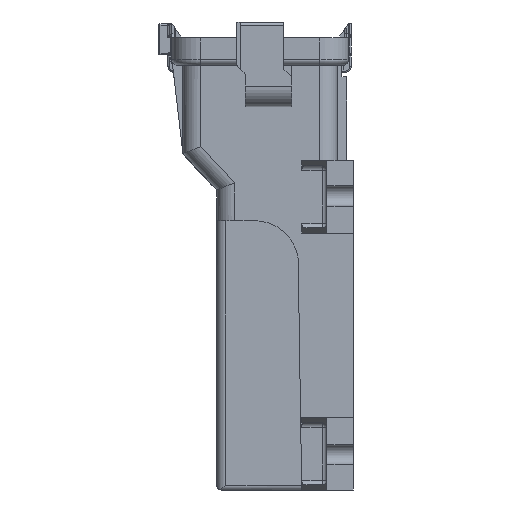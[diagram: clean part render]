
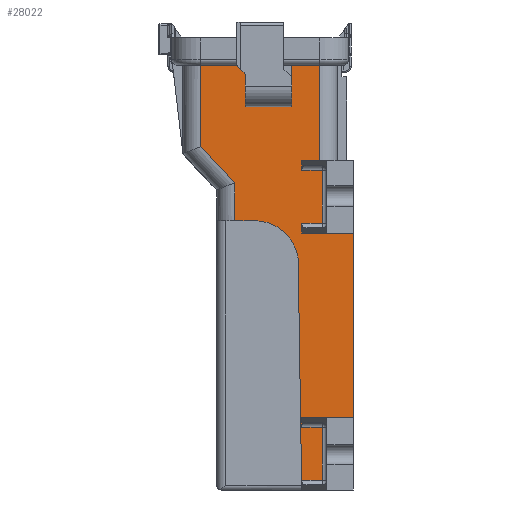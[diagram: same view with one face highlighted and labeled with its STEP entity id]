
A CAD part, left-side view. The second image highlights one B-rep face of the part: STEP entity #28022.
In plain terms, the highlighted planar face has unit normal (-1, 0, 0).
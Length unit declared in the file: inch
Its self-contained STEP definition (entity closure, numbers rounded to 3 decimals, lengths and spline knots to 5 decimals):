
#2=DIRECTION('',(0.,-1.,0.));
#3=VECTOR('',#2,0.405);
#4=CARTESIAN_POINT('',(-2.455,1.55,1.));
#5=LINE('',#4,#3);
#6=DIRECTION('',(0.,0.707,0.707));
#7=VECTOR('',#6,0.14142);
#8=CARTESIAN_POINT('',(-2.455,1.045,0.9));
#9=LINE('',#8,#7);
#10=DIRECTION('',(0.,0.,1.));
#11=VECTOR('',#10,0.37);
#12=CARTESIAN_POINT('',(-2.455,1.045,0.53));
#13=LINE('',#12,#11);
#14=DIRECTION('',(0.,1.,0.));
#15=VECTOR('',#14,0.525);
#16=CARTESIAN_POINT('',(-2.455,0.52,0.53));
#17=LINE('',#16,#15);
#18=DIRECTION('',(0.,0.,-1.));
#19=VECTOR('',#18,0.47);
#20=CARTESIAN_POINT('',(-2.455,0.52,1.));
#21=LINE('',#20,#19);
#22=DIRECTION('',(0.,-1.,0.));
#23=VECTOR('',#22,0.32);
#24=CARTESIAN_POINT('',(-2.455,0.52,1.));
#25=LINE('',#24,#23);
#26=DIRECTION('',(0.,1.,0.));
#27=VECTOR('',#26,0.205);
#28=CARTESIAN_POINT('',(-2.455,0.2,-0.08));
#29=LINE('',#28,#27);
#30=DIRECTION('',(0.,1.,0.));
#31=VECTOR('',#30,0.585);
#32=CARTESIAN_POINT('',(-2.455,-0.18,-0.9));
#33=LINE('',#32,#31);
#34=DIRECTION('',(0.,1.,0.));
#35=VECTOR('',#34,0.585);
#36=CARTESIAN_POINT('',(-2.455,-0.18,-2.99));
#37=LINE('',#36,#35);
#38=DIRECTION('',(0.,-0.015,-1.));
#39=VECTOR('',#38,2.6259);
#40=CARTESIAN_POINT('',(-2.455,0.445,-1.1844));
#41=LINE('',#40,#39);
#42=CARTESIAN_POINT('',(-2.455,0.93925,-1.26));
#43=DIRECTION('',(1.,0.,0.));
#44=DIRECTION('',(0.,0.,1.));
#45=AXIS2_PLACEMENT_3D('',#42,#43,#44);
#47=DIRECTION('',(0.,-1.,0.));
#48=VECTOR('',#47,0.22575);
#49=CARTESIAN_POINT('',(-2.455,1.165,-0.76));
#50=LINE('',#49,#48);
#12803=DIRECTION('',(0.,0.,-1.));
#12804=VECTOR('',#12803,0.92082);
#12805=CARTESIAN_POINT('',(-2.455,1.55,1.));
#12806=LINE('',#12805,#12804);
#12824=DIRECTION('',(0.,-0.685,-0.729));
#12825=VECTOR('',#12824,0.56243);
#12826=CARTESIAN_POINT('',(-2.455,1.55,0.07918));
#12827=LINE('',#12826,#12825);
#15766=DIRECTION('',(0.,0.,-1.));
#15767=VECTOR('',#15766,0.42918);
#15768=CARTESIAN_POINT('',(-2.455,1.165,-0.33082));
#15769=LINE('',#15768,#15767);
#20362=DIRECTION('',(0.,0.,-1.));
#20363=VECTOR('',#20362,2.09);
#20364=CARTESIAN_POINT('',(-2.455,-0.18,-0.9));
#20365=LINE('',#20364,#20363);
#20606=DIRECTION('',(0.,0.,1.));
#20607=VECTOR('',#20606,0.11);
#20608=CARTESIAN_POINT('',(-2.455,0.405,-0.19));
#20609=LINE('',#20608,#20607);
#20623=DIRECTION('',(0.,-1.,0.));
#20624=VECTOR('',#20623,0.235);
#20625=CARTESIAN_POINT('',(-2.455,0.405,-0.19));
#20626=LINE('',#20625,#20624);
#20644=DIRECTION('',(0.,0.,-1.));
#20645=VECTOR('',#20644,0.6);
#20646=CARTESIAN_POINT('',(-2.455,0.17,-0.19));
#20647=LINE('',#20646,#20645);
#20742=DIRECTION('',(0.,0.,1.));
#20743=VECTOR('',#20742,0.11);
#20744=CARTESIAN_POINT('',(-2.455,0.405,-0.9));
#20745=LINE('',#20744,#20743);
#20783=DIRECTION('',(0.,1.,0.));
#20784=VECTOR('',#20783,0.235);
#20785=CARTESIAN_POINT('',(-2.455,0.17,-0.79));
#20786=LINE('',#20785,#20784);
#20965=DIRECTION('',(0.,0.,1.));
#20966=VECTOR('',#20965,0.11);
#20967=CARTESIAN_POINT('',(-2.455,0.405,-3.81));
#20968=LINE('',#20967,#20966);
#20973=DIRECTION('',(0.,1.,0.));
#20974=VECTOR('',#20973,0.235);
#20975=CARTESIAN_POINT('',(-2.455,0.17,-3.7));
#20976=LINE('',#20975,#20974);
#20994=DIRECTION('',(0.,0.,-1.));
#20995=VECTOR('',#20994,0.6);
#20996=CARTESIAN_POINT('',(-2.455,0.17,-3.1));
#20997=LINE('',#20996,#20995);
#21021=DIRECTION('',(0.,-1.,0.));
#21022=VECTOR('',#21021,0.235);
#21023=CARTESIAN_POINT('',(-2.455,0.405,-3.1));
#21024=LINE('',#21023,#21022);
#21033=DIRECTION('',(0.,0.,1.));
#21034=VECTOR('',#21033,0.11);
#21035=CARTESIAN_POINT('',(-2.455,0.405,-3.1));
#21036=LINE('',#21035,#21034);
#22823=DIRECTION('',(0.,0.,1.));
#22824=VECTOR('',#22823,1.08);
#22825=CARTESIAN_POINT('',(-2.455,0.2,-0.08));
#22826=LINE('',#22825,#22824);
#23146=CARTESIAN_POINT('',(-2.455,0.93925,-0.76));
#23147=CARTESIAN_POINT('',(-2.455,0.445,-1.1844));
#23148=VERTEX_POINT('',#23146);
#23149=VERTEX_POINT('',#23147);
#23184=CARTESIAN_POINT('',(-2.455,1.165,-0.33082));
#23185=CARTESIAN_POINT('',(-2.455,1.165,-0.76));
#23186=VERTEX_POINT('',#23184);
#23187=VERTEX_POINT('',#23185);
#23188=CARTESIAN_POINT('',(-2.455,1.55,0.07918));
#23189=VERTEX_POINT('',#23188);
#23374=CARTESIAN_POINT('',(-2.455,0.2,1.));
#23376=VERTEX_POINT('',#23374);
#23382=CARTESIAN_POINT('',(-2.455,1.55,1.));
#23383=VERTEX_POINT('',#23382);
#23470=CARTESIAN_POINT('',(-2.455,0.52,1.));
#23471=CARTESIAN_POINT('',(-2.455,0.52,0.53));
#23472=VERTEX_POINT('',#23470);
#23473=VERTEX_POINT('',#23471);
#24183=CARTESIAN_POINT('',(-2.455,0.17,-0.79));
#24184=CARTESIAN_POINT('',(-2.455,0.405,-0.79));
#24185=VERTEX_POINT('',#24183);
#24186=VERTEX_POINT('',#24184);
#24199=CARTESIAN_POINT('',(-2.455,0.17,-0.19));
#24200=VERTEX_POINT('',#24199);
#24211=CARTESIAN_POINT('',(-2.455,0.405,-3.1));
#24212=CARTESIAN_POINT('',(-2.455,0.17,-3.1));
#24213=VERTEX_POINT('',#24211);
#24214=VERTEX_POINT('',#24212);
#24215=CARTESIAN_POINT('',(-2.455,0.17,-3.7));
#24216=VERTEX_POINT('',#24215);
#24439=CARTESIAN_POINT('',(-2.455,0.405,-3.81));
#24440=VERTEX_POINT('',#24439);
#24445=CARTESIAN_POINT('',(-2.455,0.2,-0.08));
#24446=CARTESIAN_POINT('',(-2.455,0.405,-0.08));
#24447=VERTEX_POINT('',#24445);
#24448=VERTEX_POINT('',#24446);
#24471=CARTESIAN_POINT('',(-2.455,0.405,-0.19));
#24472=VERTEX_POINT('',#24471);
#24473=CARTESIAN_POINT('',(-2.455,0.405,-3.7));
#24474=VERTEX_POINT('',#24473);
#25407=CARTESIAN_POINT('',(-2.455,1.045,0.53));
#25408=VERTEX_POINT('',#25407);
#25413=CARTESIAN_POINT('',(-2.455,1.045,0.9));
#25414=VERTEX_POINT('',#25413);
#26164=CARTESIAN_POINT('',(-2.455,1.145,1.));
#26166=VERTEX_POINT('',#26164);
#27937=CARTESIAN_POINT('',(-2.455,-0.18,-2.99));
#27938=CARTESIAN_POINT('',(-2.455,0.405,-2.99));
#27939=VERTEX_POINT('',#27937);
#27940=VERTEX_POINT('',#27938);
#27953=CARTESIAN_POINT('',(-2.455,-0.18,-0.9));
#27954=CARTESIAN_POINT('',(-2.455,0.405,-0.9));
#27955=VERTEX_POINT('',#27953);
#27956=VERTEX_POINT('',#27954);
#27961=CARTESIAN_POINT('',(-2.455,0.,0.));
#27962=DIRECTION('',(1.,0.,0.));
#27963=DIRECTION('',(0.,0.,-1.));
#27964=AXIS2_PLACEMENT_3D('',#27961,#27962,#27963);
#27965=PLANE('',#27964);
#27967=ORIENTED_EDGE('',*,*,#27966,.T.);
#27969=ORIENTED_EDGE('',*,*,#27968,.F.);
#27971=ORIENTED_EDGE('',*,*,#27970,.F.);
#27973=ORIENTED_EDGE('',*,*,#27972,.F.);
#27975=ORIENTED_EDGE('',*,*,#27974,.F.);
#27977=ORIENTED_EDGE('',*,*,#27976,.T.);
#27979=ORIENTED_EDGE('',*,*,#27978,.F.);
#27981=ORIENTED_EDGE('',*,*,#27980,.T.);
#27983=ORIENTED_EDGE('',*,*,#27982,.F.);
#27985=ORIENTED_EDGE('',*,*,#27984,.T.);
#27987=ORIENTED_EDGE('',*,*,#27986,.T.);
#27989=ORIENTED_EDGE('',*,*,#27988,.T.);
#27991=ORIENTED_EDGE('',*,*,#27990,.F.);
#27993=ORIENTED_EDGE('',*,*,#27992,.F.);
#27995=ORIENTED_EDGE('',*,*,#27994,.T.);
#27997=ORIENTED_EDGE('',*,*,#27996,.T.);
#27999=ORIENTED_EDGE('',*,*,#27998,.F.);
#28001=ORIENTED_EDGE('',*,*,#28000,.T.);
#28003=ORIENTED_EDGE('',*,*,#28002,.T.);
#28005=ORIENTED_EDGE('',*,*,#28004,.T.);
#28007=ORIENTED_EDGE('',*,*,#28006,.F.);
#28009=ORIENTED_EDGE('',*,*,#28008,.F.);
#28011=ORIENTED_EDGE('',*,*,#28010,.F.);
#28013=ORIENTED_EDGE('',*,*,#28012,.F.);
#28015=ORIENTED_EDGE('',*,*,#28014,.F.);
#28017=ORIENTED_EDGE('',*,*,#28016,.F.);
#28019=ORIENTED_EDGE('',*,*,#28018,.F.);
#28020=EDGE_LOOP('',(#27967,#27969,#27971,#27973,#27975,#27977,#27979,#27981,
#27983,#27985,#27987,#27989,#27991,#27993,#27995,#27997,#27999,#28001,#28003,
#28005,#28007,#28009,#28011,#28013,#28015,#28017,#28019));
#28021=FACE_OUTER_BOUND('',#28020,.F.);
#28022=ADVANCED_FACE('',(#28021),#27965,.F.);
#46=CIRCLE('',#45,0.5);
#27966=EDGE_CURVE('',#23383,#26166,#5,.T.);
#27968=EDGE_CURVE('',#25414,#26166,#9,.T.);
#27970=EDGE_CURVE('',#25408,#25414,#13,.T.);
#27972=EDGE_CURVE('',#23473,#25408,#17,.T.);
#27974=EDGE_CURVE('',#23472,#23473,#21,.T.);
#27976=EDGE_CURVE('',#23472,#23376,#25,.T.);
#27978=EDGE_CURVE('',#24447,#23376,#22826,.T.);
#27980=EDGE_CURVE('',#24447,#24448,#29,.T.);
#27982=EDGE_CURVE('',#24472,#24448,#20609,.T.);
#27984=EDGE_CURVE('',#24472,#24200,#20626,.T.);
#27986=EDGE_CURVE('',#24200,#24185,#20647,.T.);
#27988=EDGE_CURVE('',#24185,#24186,#20786,.T.);
#27990=EDGE_CURVE('',#27956,#24186,#20745,.T.);
#27992=EDGE_CURVE('',#27955,#27956,#33,.T.);
#27994=EDGE_CURVE('',#27955,#27939,#20365,.T.);
#27996=EDGE_CURVE('',#27939,#27940,#37,.T.);
#27998=EDGE_CURVE('',#24213,#27940,#21036,.T.);
#28000=EDGE_CURVE('',#24213,#24214,#21024,.T.);
#28002=EDGE_CURVE('',#24214,#24216,#20997,.T.);
#28004=EDGE_CURVE('',#24216,#24474,#20976,.T.);
#28006=EDGE_CURVE('',#24440,#24474,#20968,.T.);
#28008=EDGE_CURVE('',#23149,#24440,#41,.T.);
#28010=EDGE_CURVE('',#23148,#23149,#46,.T.);
#28012=EDGE_CURVE('',#23187,#23148,#50,.T.);
#28014=EDGE_CURVE('',#23186,#23187,#15769,.T.);
#28016=EDGE_CURVE('',#23189,#23186,#12827,.T.);
#28018=EDGE_CURVE('',#23383,#23189,#12806,.T.);
